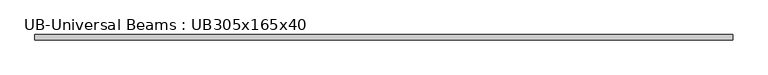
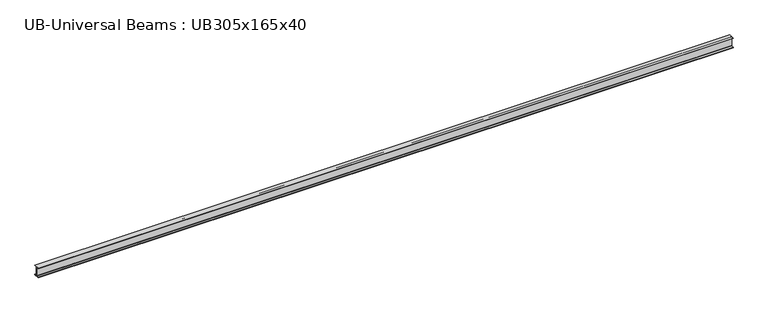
"""IFC4 building model written with IfcOpenShell, lengths in millimetres: beam geometry, UB-Universal Beams : UB305x165x40."""

from ifc_helpers import new_model, si_unit, point, frame, frame_2d, origin, place, context, project, spatial, polyline, circle_curve, trimmed, segment, composite_curve, outline, extrude, source, transform, mapped, element, save


def ub_universal_beams_ub305x165x40_91c2d510(model_context):
    return source(origin(), model_context, "Body", "SweptSolid", [
        extrude(outline(composite_curve([segment(polyline([(82.5, -141.5), (82.5, -151.7), (-82.5, -151.7), (-82.5, -141.5), (-11.9, -141.5)]), True, "CONTINUOUS"), segment(trimmed(circle_curve(frame_2d((-11.9, -132.6)), 8.9), [point((-11.9, -141.5))], [point((-3.0, -132.6))], True, "CARTESIAN"), True, "CONTINUOUS"), segment(polyline([(-3.0, -132.6), (-3.0, 132.6)]), True, "CONTINUOUS"), segment(trimmed(circle_curve(frame_2d((-11.9, 132.6)), 8.9), [point((-3.0, 132.6))], [point((-11.9, 141.5))], True, "CARTESIAN"), True, "CONTINUOUS"), segment(polyline([(-11.9, 141.5), (-82.5, 141.5), (-82.5, 151.7), (82.5, 151.7), (82.5, 141.5), (11.9, 141.5)]), True, "CONTINUOUS"), segment(trimmed(circle_curve(frame_2d((11.9, 132.6)), 8.9), [point((11.9, 141.5))], [point((3.0, 132.6))], True, "CARTESIAN"), True, "CONTINUOUS"), segment(polyline([(3.0, 132.6), (3.0, -132.6)]), True, "CONTINUOUS"), segment(trimmed(circle_curve(frame_2d((11.9, -132.6)), 8.9), [point((3.0, -132.6))], [point((11.9, -141.5))], True, "CARTESIAN"), True, "CONTINUOUS"), segment(polyline([(11.9, -141.5), (82.5, -141.5)]), True, "CONTINUOUS")], self_intersect=False)), frame((-11941.45, 0.0, 0.0), z_axis=(1.0, 0.0, 0.0), x_axis=(0.0, 1.0, 0.0)), (0.0, 0.0, 1.0), 20833.3),
    ])


if __name__ == "__main__":
    model = new_model("IFC4")
    model_context = context("Model", 3, world=origin())
    ifc_project = project(units=[si_unit("LENGTHUNIT", "METRE", prefix="MILLI")], contexts=[model_context])
    site = spatial("IfcSite", under=ifc_project)
    building = spatial("IfcBuilding", under=site)
    placement = place(None, origin())
    ub_universal_beams_ub305x165x40_shape = ub_universal_beams_ub305x165x40_91c2d510(model_context)
    element("IfcBeam", 1, ObjectType="UB-Universal Beams : UB305x165x40", at=placement, inside=building, context=model_context, shape_type="MappedRepresentation", body=[
        mapped(ub_universal_beams_ub305x165x40_shape, transform((0.0, 0.0, 0.0), x_axis=(1.0, 0.0, 0.0), y_axis=(0.0, 1.0, 0.0), z_axis=(0.0, 0.0, 1.0))),
    ])
    save(model, "model.ifc")
